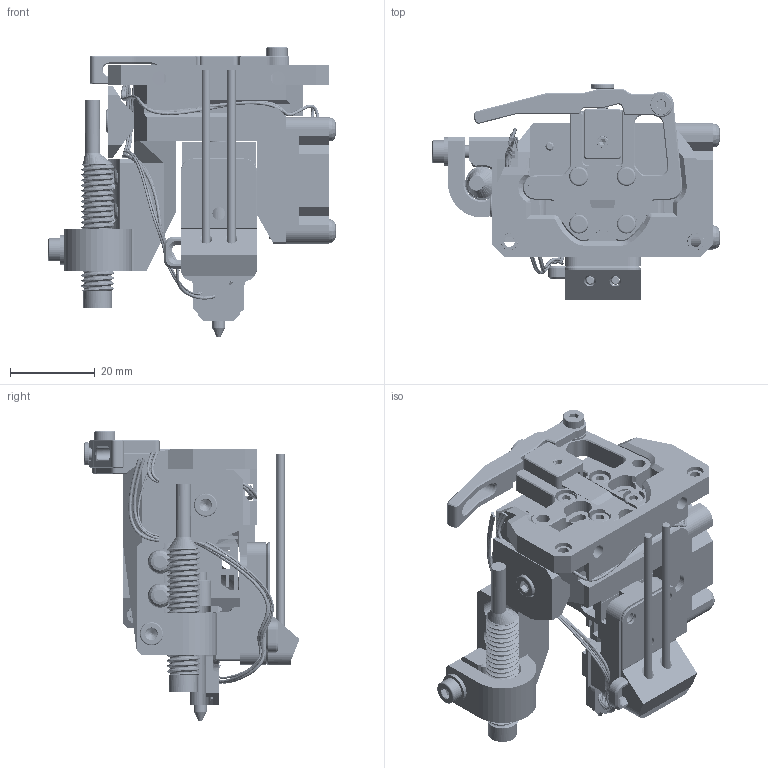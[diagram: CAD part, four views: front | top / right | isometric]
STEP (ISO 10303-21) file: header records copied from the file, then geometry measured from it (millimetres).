
FILE_DESCRIPTION(/* description */ (''),/* implementation_level */ '2;1');
FILE_NAME(/* name */ 'bambulab fan mount and pinda.step',/* time_stamp */ '2026-07-11T11:56:47+02:00',/* author */ (''),/* organization */ (''),/* preprocessor_version */ 'ST-DEVELOPER v20.1',/* originating_system */ 'Autodesk Translation Framework v15.8.0.0',/* authorisation */ '');
FILE_SCHEMA (('AUTOMOTIVE_DESIGN { 1 0 10303 214 3 1 1 }'));
Products named in the file (41): Fan duct redesign project ProosaXY; Hardware; M2.5_threaded_insert; VITE_TESTA_BOMBATA_ESAGONO_INCASSATO; Knurled Insert M3xH4; VITE_TESTA_CILINDRICA_ALTA_ESAGONO_INCASSATO; M3x8-Screw078; Reinforcement; M2x30 dowel pin; Fan duct redesign project ProosaXY_1; assembled cooler 3010 12-24v; corps 3010; plate_electronic; bushing; impeller; pin; MAIN; toolhead; probe-mount001; pinda v4; Document; flat washer narrow_am_B18.22M - Plain washer, 3 mm, narrow; M3x16-Screw; VITE_TESTA_BOMBATA_ESAGONO_INCASSATO_1; VzBot Magneto Filament Cutter (v13~recovered); #156728; Blade Holder Updated 12/5 to Widened blade holder; Lever Updated 12/5 to fit wider blade holder; Adapter Plate Updated 12/5 to fit wider blade holder; .5 Shim 3x6 Stainless Steel ; 90358A002_Ultra-Low-Profile Socket Head Screw; 90265A323_18-8 Stainless Steel Shoulder Screw; N42sh Magnet 6x1.5mm (1); N42sh Magnet 6x1.5mm (1) (1); M3x0.5 x 3 Stainless Grub Screw; Bambulab A1-H2 hotend assembly; Assembly1; 1041-01-002; H2S/D düse; Fan duct redesign project ProosaXY_2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
Assembly tree (60 placements, depth 4):
  Fan duct redesign project ProosaXY
    Hardware
      Knurled Insert M3xH4  x11
      M2.5_threaded_insert  x4
      VITE_TESTA_BOMBATA_ESAGONO_INCASSATO  x3
      VITE_TESTA_CILINDRICA_ALTA_ESAGONO_INCASSATO  x4
      M3x8-Screw078
    Reinforcement
      M2x30 dowel pin
    Fan duct redesign project ProosaXY_1
    assembled cooler 3010 12-24v
      corps 3010
      plate_electronic
      bushing
      impeller
      pin
    MAIN
      toolhead
        probe-mount001
        pinda v4
      Document
      flat washer narrow_am_B18.22M - Plain washer, 3 mm, narrow
      M3x16-Screw
      VITE_TESTA_BOMBATA_ESAGONO_INCASSATO_1  x2
    VzBot Magneto Filament Cutter (v13~recovered)
      #156728
      Blade Holder Updated 12/5 to Widened blade holder
      Lever Updated 12/5 to fit wider blade holder
      Adapter Plate Updated 12/5 to fit wider blade holder
        .5 Shim 3x6 Stainless Steel 
        90358A002_Ultra-Low-Profile Socket Head Screw
        90265A323_18-8 Stainless Steel Shoulder Screw
        N42sh Magnet 6x1.5mm (1)
        N42sh Magnet 6x1.5mm (1) (1)
        M3x0.5 x 3 Stainless Grub Screw
    Bambulab A1-H2 hotend assembly
      Assembly1
        1041-01-002
      H2S/D düse
    Fan duct redesign project ProosaXY_2
    M2x50 dowel pin  x2
Bounding box: 67.85 x 50.78 x 68.27 mm (x, y, z)
Volume: 45035.9 mm3; surface area: 43744.7 mm2
Topology: 86 solids, 103 shells, 4779 faces, 11907 edges, 7394 vertices
Faces by surface type: plane 2183, cylinder 1115, bspline 1060, cone 374, torus 45, sphere 2
Full cylindrical faces by diameter (mm): 0.4 x1, 1.4 x1, 1.625 x1, 1.915 x6, 1.95 x2, 2 x6, 2.05 x4, 2.075 x34, 2.2 x1, 2.35 x22, 2.356 x4, 2.459 x11, 2.5 x8, 2.529 x11, 2.55 x4, 2.58 x34, 2.594 x1, 2.927 x2, 3 x46, 3.086 x3, 3.15 x2, 3.2 x5, 3.3 x3, 3.5 x2, 3.6 x4, 3.68 x1, 3.734 x22, 4 x17, 4.1 x1, 4.5 x6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
Entity records: 156791 total; most frequent: CARTESIAN_POINT 86858, ORIENTED_EDGE 15004, DIRECTION 13085, EDGE_CURVE 7502, VERTEX_POINT 4865, LINE 4771, VECTOR 4771, AXIS2_PLACEMENT_3D 4157
